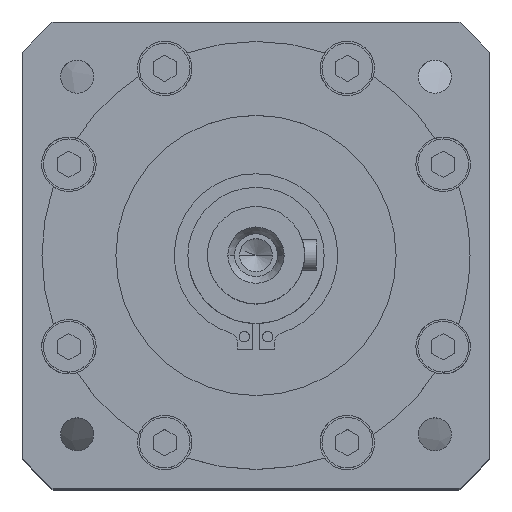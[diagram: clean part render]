
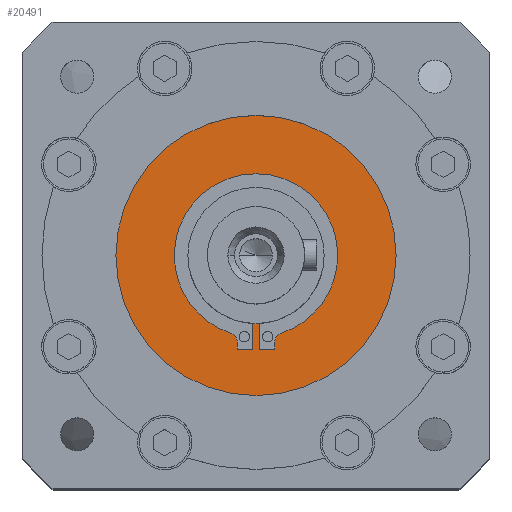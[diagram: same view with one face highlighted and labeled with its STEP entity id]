
A CAD part, top view. The second image highlights one B-rep face of the part: STEP entity #20491.
In plain terms, the highlighted planar face has unit normal (0, 0, 1).
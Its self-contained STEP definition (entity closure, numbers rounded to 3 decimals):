
#125 = ORIENTED_EDGE ( 'NONE', *, *, #22166, .F. ) ;
#747 = VECTOR ( 'NONE', #16833, 1000. ) ;
#1039 = DIRECTION ( 'NONE',  ( 0., -1., 0. ) ) ;
#1165 = ORIENTED_EDGE ( 'NONE', *, *, #21190, .F. ) ;
#1365 = CARTESIAN_POINT ( 'NONE',  ( 0.85, -17.479, -2.7 ) ) ;
#1483 = AXIS2_PLACEMENT_3D ( 'NONE', #12595, #12568, #12557 ) ;
#3221 = AXIS2_PLACEMENT_3D ( 'NONE', #4944, #4908, #4870 ) ;
#3234 = AXIS2_PLACEMENT_3D ( 'NONE', #14505, #14472, #14434 ) ;
#3800 = AXIS2_PLACEMENT_3D ( 'NONE', #13317, #13310, #13276 ) ;
#4092 = AXIS2_PLACEMENT_3D ( 'NONE', #9634, #9595, #9590 ) ;
#4177 = LINE ( 'NONE', #16538, #8647 ) ;
#4645 = VERTEX_POINT ( 'NONE', #22354 ) ;
#4870 = DIRECTION ( 'NONE',  ( -1., 0., 0. ) ) ;
#4908 = DIRECTION ( 'NONE',  ( 0., 0., 1. ) ) ;
#4944 = CARTESIAN_POINT ( 'NONE',  ( -4.35, -23.779, -2.7 ) ) ;
#5295 = DIRECTION ( 'NONE',  ( -1., 0., 0. ) ) ;
#5366 = DIRECTION ( 'NONE',  ( 0., 0., -1. ) ) ;
#5379 = CARTESIAN_POINT ( 'NONE',  ( -7.35, -22.321, -2.7 ) ) ;
#5594 = ORIENTED_EDGE ( 'NONE', *, *, #16481, .T. ) ;
#5715 = LINE ( 'NONE', #20388, #5922 ) ;
#5922 = VECTOR ( 'NONE', #20419, 1000. ) ;
#5985 = VERTEX_POINT ( 'NONE', #11350 ) ;
#6276 = LINE ( 'NONE', #17025, #747 ) ;
#7182 = CIRCLE ( 'NONE', #31363, 36. ) ;
#7581 = LINE ( 'NONE', #18307, #8056 ) ;
#7912 = CARTESIAN_POINT ( 'NONE',  ( 4.85, -22.321, -2.7 ) ) ;
#8056 = VECTOR ( 'NONE', #25487, 1000. ) ;
#8538 = EDGE_LOOP ( 'NONE', ( #12954, #5594 ) ) ;
#8647 = VECTOR ( 'NONE', #1039, 1000. ) ;
#8861 = ORIENTED_EDGE ( 'NONE', *, *, #9390, .F. ) ;
#8963 = CIRCLE ( 'NONE', #1483, 21. ) ;
#9390 = EDGE_CURVE ( 'NONE', #22809, #10764, #10714, .T. ) ;
#9590 = DIRECTION ( 'NONE',  ( -1., 0., 0. ) ) ;
#9595 = DIRECTION ( 'NONE',  ( 0., 0., 1. ) ) ;
#9634 = CARTESIAN_POINT ( 'NONE',  ( 4.35, -23.779, -2.7 ) ) ;
#9743 = EDGE_CURVE ( 'NONE', #29425, #28045, #16625, .T. ) ;
#9979 = EDGE_LOOP ( 'NONE', ( #14127, #26838, #18660, #17243, #26029, #26229, #1165, #12893, #13143, #8861, #17208, #24741, #15482, #125 ) ) ;
#10303 = CARTESIAN_POINT ( 'NONE',  ( -0.85, -24.279, -2.7 ) ) ;
#10534 = CARTESIAN_POINT ( 'NONE',  ( -4.85, -22.321, -2.7 ) ) ;
#10714 = CIRCLE ( 'NONE', #4092, 0.5 ) ;
#10764 = VERTEX_POINT ( 'NONE', #26981 ) ;
#11041 = DIRECTION ( 'NONE',  ( 0., 1., 0. ) ) ;
#11227 = AXIS2_PLACEMENT_3D ( 'NONE', #25258, #25227, #25224 ) ;
#11350 = CARTESIAN_POINT ( 'NONE',  ( 6.568, -19.946, -2.7 ) ) ;
#11961 = VERTEX_POINT ( 'NONE', #1365 ) ;
#12284 = CARTESIAN_POINT ( 'NONE',  ( -0.85, 0., -2.7 ) ) ;
#12557 = DIRECTION ( 'NONE',  ( -1., 0., 0. ) ) ;
#12568 = DIRECTION ( 'NONE',  ( 0., 0., 1. ) ) ;
#12595 = CARTESIAN_POINT ( 'NONE',  ( 0., 0., -2.7 ) ) ;
#12745 = VERTEX_POINT ( 'NONE', #28657 ) ;
#12770 = VERTEX_POINT ( 'NONE', #27900 ) ;
#12799 = VECTOR ( 'NONE', #21417, 1000. ) ;
#12893 = ORIENTED_EDGE ( 'NONE', *, *, #21147, .F. ) ;
#12905 = LINE ( 'NONE', #21517, #12799 ) ;
#12954 = ORIENTED_EDGE ( 'NONE', *, *, #23218, .T. ) ;
#13010 = CARTESIAN_POINT ( 'NONE',  ( -4.35, -24.279, -2.7 ) ) ;
#13143 = ORIENTED_EDGE ( 'NONE', *, *, #20999, .F. ) ;
#13216 = CIRCLE ( 'NONE', #3234, 2.5 ) ;
#13268 = CIRCLE ( 'NONE', #3800, 36. ) ;
#13276 = DIRECTION ( 'NONE',  ( 1., 0., 0. ) ) ;
#13310 = DIRECTION ( 'NONE',  ( 0., 0., 1. ) ) ;
#13317 = CARTESIAN_POINT ( 'NONE',  ( 0., 0., -2.7 ) ) ;
#14127 = ORIENTED_EDGE ( 'NONE', *, *, #21870, .F. ) ;
#14434 = DIRECTION ( 'NONE',  ( -1., 0., 0. ) ) ;
#14472 = DIRECTION ( 'NONE',  ( 0., 0., -1. ) ) ;
#14505 = CARTESIAN_POINT ( 'NONE',  ( 7.35, -22.321, -2.7 ) ) ;
#15482 = ORIENTED_EDGE ( 'NONE', *, *, #22653, .F. ) ;
#15649 = VERTEX_POINT ( 'NONE', #10303 ) ;
#16015 = LINE ( 'NONE', #12284, #17577 ) ;
#16481 = EDGE_CURVE ( 'NONE', #25051, #18489, #7182, .T. ) ;
#16538 = CARTESIAN_POINT ( 'NONE',  ( -4.85, 0., -2.7 ) ) ;
#16625 = CIRCLE ( 'NONE', #3221, 0.5 ) ;
#16750 = VERTEX_POINT ( 'NONE', #23182 ) ;
#16761 = VERTEX_POINT ( 'NONE', #22524 ) ;
#16833 = DIRECTION ( 'NONE',  ( 0., 1., 0. ) ) ;
#17025 = CARTESIAN_POINT ( 'NONE',  ( 4.85, 0., -2.7 ) ) ;
#17208 = ORIENTED_EDGE ( 'NONE', *, *, #20859, .F. ) ;
#17243 = ORIENTED_EDGE ( 'NONE', *, *, #21498, .F. ) ;
#17541 = VERTEX_POINT ( 'NONE', #10534 ) ;
#17576 = AXIS2_PLACEMENT_3D ( 'NONE', #26011, #25971, #25946 ) ;
#17577 = VECTOR ( 'NONE', #11041, 1000. ) ;
#17873 = CIRCLE ( 'NONE', #20143, 21. ) ;
#18307 = CARTESIAN_POINT ( 'NONE',  ( 0., -24.279, -2.7 ) ) ;
#18489 = VERTEX_POINT ( 'NONE', #28988 ) ;
#18660 = ORIENTED_EDGE ( 'NONE', *, *, #21721, .F. ) ;
#18687 = EDGE_CURVE ( 'NONE', #4645, #12745, #19399, .T. ) ;
#18793 = EDGE_CURVE ( 'NONE', #12745, #16761, #17873, .T. ) ;
#19399 = CIRCLE ( 'NONE', #11227, 21. ) ;
#19576 = CARTESIAN_POINT ( 'NONE',  ( 4.35, -24.279, -2.7 ) ) ;
#20143 = AXIS2_PLACEMENT_3D ( 'NONE', #22191, #22160, #22129 ) ;
#20230 = CIRCLE ( 'NONE', #29699, 2.5 ) ;
#20388 = CARTESIAN_POINT ( 'NONE',  ( 0., -24.279, -2.7 ) ) ;
#20419 = DIRECTION ( 'NONE',  ( 1., 0., 0. ) ) ;
#20491 = ADVANCED_FACE ( 'NONE', ( #27953, #28413 ), #26238, .F. ) ;
#20774 = EDGE_CURVE ( 'NONE', #11961, #16750, #12905, .T. ) ;
#20859 = EDGE_CURVE ( 'NONE', #16750, #22809, #5715, .T. ) ;
#20862 = CARTESIAN_POINT ( 'NONE',  ( -36., 0., -2.7 ) ) ;
#20999 = EDGE_CURVE ( 'NONE', #10764, #30101, #6276, .T. ) ;
#21147 = EDGE_CURVE ( 'NONE', #30101, #5985, #13216, .T. ) ;
#21190 = EDGE_CURVE ( 'NONE', #5985, #4645, #8963, .T. ) ;
#21417 = DIRECTION ( 'NONE',  ( 0., -1., 0. ) ) ;
#21498 = EDGE_CURVE ( 'NONE', #16761, #17541, #20230, .T. ) ;
#21517 = CARTESIAN_POINT ( 'NONE',  ( 0.85, 0., -2.7 ) ) ;
#21721 = EDGE_CURVE ( 'NONE', #17541, #29425, #4177, .T. ) ;
#21870 = EDGE_CURVE ( 'NONE', #28045, #15649, #7581, .T. ) ;
#22129 = DIRECTION ( 'NONE',  ( -1., 0., 0. ) ) ;
#22160 = DIRECTION ( 'NONE',  ( 0., 0., 1. ) ) ;
#22166 = EDGE_CURVE ( 'NONE', #15649, #12770, #16015, .T. ) ;
#22191 = CARTESIAN_POINT ( 'NONE',  ( 0., 0., -2.7 ) ) ;
#22279 = DIRECTION ( 'NONE',  ( -1., 0., 0. ) ) ;
#22308 = DIRECTION ( 'NONE',  ( 0., 0., 1. ) ) ;
#22341 = CARTESIAN_POINT ( 'NONE',  ( 0., 0., -2.7 ) ) ;
#22354 = CARTESIAN_POINT ( 'NONE',  ( 21., 0., -2.7 ) ) ;
#22524 = CARTESIAN_POINT ( 'NONE',  ( -6.568, -19.946, -2.7 ) ) ;
#22653 = EDGE_CURVE ( 'NONE', #12770, #11961, #31847, .T. ) ;
#22809 = VERTEX_POINT ( 'NONE', #19576 ) ;
#23182 = CARTESIAN_POINT ( 'NONE',  ( 0.85, -24.279, -2.7 ) ) ;
#23218 = EDGE_CURVE ( 'NONE', #18489, #25051, #13268, .T. ) ;
#24741 = ORIENTED_EDGE ( 'NONE', *, *, #20774, .F. ) ;
#25051 = VERTEX_POINT ( 'NONE', #20862 ) ;
#25224 = DIRECTION ( 'NONE',  ( -1., 0., 0. ) ) ;
#25227 = DIRECTION ( 'NONE',  ( 0., 0., 1. ) ) ;
#25258 = CARTESIAN_POINT ( 'NONE',  ( 0., 0., -2.7 ) ) ;
#25487 = DIRECTION ( 'NONE',  ( 1., 0., 0. ) ) ;
#25946 = DIRECTION ( 'NONE',  ( -1., 0., 0. ) ) ;
#25971 = DIRECTION ( 'NONE',  ( 0., 0., -1. ) ) ;
#26011 = CARTESIAN_POINT ( 'NONE',  ( 0., 0., -2.7 ) ) ;
#26029 = ORIENTED_EDGE ( 'NONE', *, *, #18793, .F. ) ;
#26229 = ORIENTED_EDGE ( 'NONE', *, *, #18687, .F. ) ;
#26238 = PLANE ( 'NONE',  #17576 ) ;
#26838 = ORIENTED_EDGE ( 'NONE', *, *, #9743, .F. ) ;
#26981 = CARTESIAN_POINT ( 'NONE',  ( 4.85, -23.779, -2.7 ) ) ;
#27328 = AXIS2_PLACEMENT_3D ( 'NONE', #22341, #22308, #22279 ) ;
#27596 = CARTESIAN_POINT ( 'NONE',  ( -4.85, -23.779, -2.7 ) ) ;
#27900 = CARTESIAN_POINT ( 'NONE',  ( -0.85, -17.479, -2.7 ) ) ;
#27953 = FACE_BOUND ( 'NONE', #9979, .T. ) ;
#28045 = VERTEX_POINT ( 'NONE', #13010 ) ;
#28372 = DIRECTION ( 'NONE',  ( 1., 0., 0. ) ) ;
#28390 = DIRECTION ( 'NONE',  ( 0., 0., 1. ) ) ;
#28397 = CARTESIAN_POINT ( 'NONE',  ( 0., 0., -2.7 ) ) ;
#28413 = FACE_OUTER_BOUND ( 'NONE', #8538, .T. ) ;
#28657 = CARTESIAN_POINT ( 'NONE',  ( -21., 0., -2.7 ) ) ;
#28988 = CARTESIAN_POINT ( 'NONE',  ( 36., 0., -2.7 ) ) ;
#29425 = VERTEX_POINT ( 'NONE', #27596 ) ;
#29699 = AXIS2_PLACEMENT_3D ( 'NONE', #5379, #5366, #5295 ) ;
#30101 = VERTEX_POINT ( 'NONE', #7912 ) ;
#31363 = AXIS2_PLACEMENT_3D ( 'NONE', #28397, #28390, #28372 ) ;
#31847 = CIRCLE ( 'NONE', #27328, 17.5 ) ;
